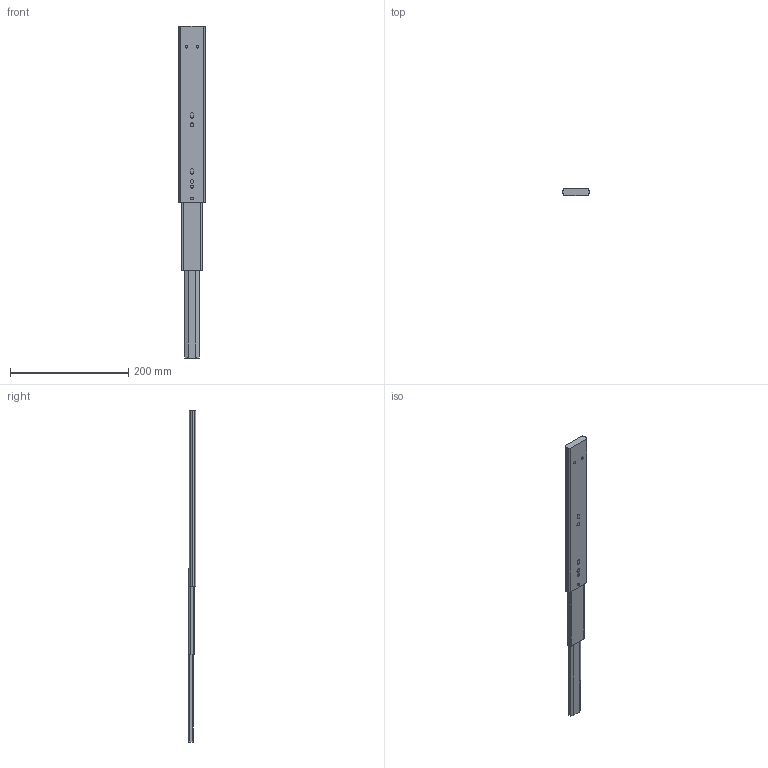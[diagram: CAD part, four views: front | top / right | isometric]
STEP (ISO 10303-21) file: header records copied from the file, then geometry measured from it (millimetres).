
FILE_DESCRIPTION (( 'STEP AP203' ), '1' );
FILE_NAME ('4587112H(嶺).STEP', '2020-02-13T08:59:41', ( 'ZZG' ), ( 'Microsoft' ), 'SwSTEP 2.0', 'SolidWorks 2012', '' );
FILE_SCHEMA (( 'CONFIG_CONTROL_DESIGN' ));
Length unit declared in the file: millimetre
Products named in the file (1): 4587112H(嶺)
Bounding box: 45.57 x 12.7 x 561.5 mm (x, y, z)
Volume: 217123.3 mm3; surface area: 51536.8 mm2
Topology: 1 solids, 1 shells, 204 faces, 559 edges, 372 vertices
Faces by surface type: cylinder 100, plane 92, bspline 6, cone 6
Entity records: 6820 total; most frequent: CARTESIAN_POINT 1417, DIRECTION 1143, ORIENTED_EDGE 1118, EDGE_CURVE 559, AXIS2_PLACEMENT_3D 414, VERTEX_POINT 372, LINE 315, VECTOR 315
